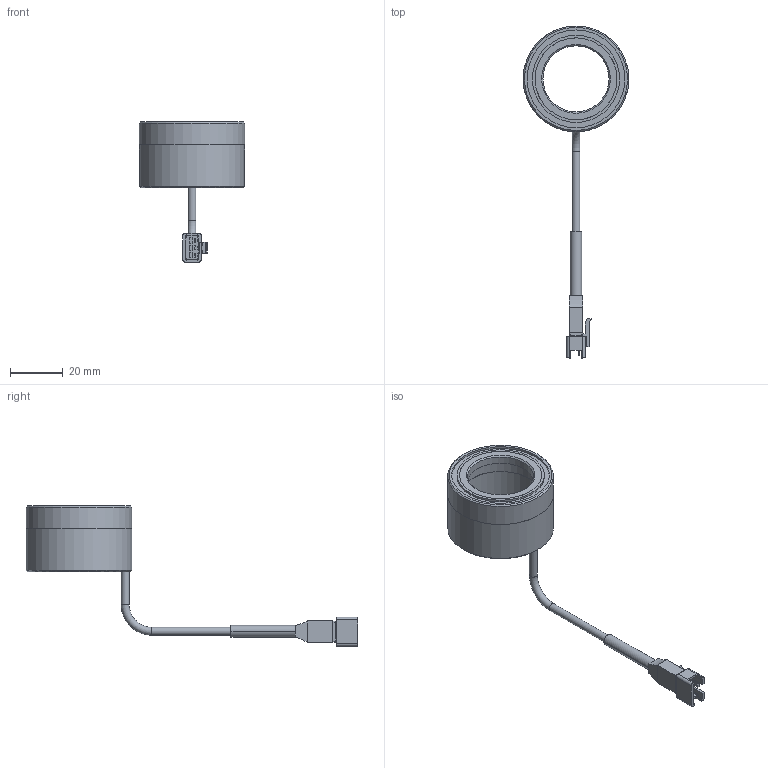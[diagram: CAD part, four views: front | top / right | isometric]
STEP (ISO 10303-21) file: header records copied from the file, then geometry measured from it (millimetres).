
FILE_DESCRIPTION (( 'STEP AP203' ), '1' );
FILE_NAME ('VAT-4030W-TCH110_Drawing_L1220A - A00100.STEP', '2024-02-01T08:38:16', ( '' ), ( '' ), 'SwSTEP 2.0', 'SolidWorks 2020', '' );
FILE_SCHEMA (( 'CONFIG_CONTROL_DESIGN' ));
Length unit declared in the file: millimetre
Products named in the file (7): VAT-4030W-TCH110_Drawing_L1220A - A00100; JST SM 2.5 CABLE 3P; VAT-4030W-TCH110 _ TMR1023D305A _ TCH-110 透鏡 _ L1220A-M00501; VAT-4030W-TCH110 _ TMR1023D302A _ TCH-110 內框圈 _ L1220A-M00201; VAT-4030W-TCH110 _ TMR1023D304A _ TCH-110 轉接環 _ L1220A-M00401; VAT-4030W-TCH110 _ TMR1023D301A _ TCH-110 基座 _ L1220A-M00101; VAT-4030W-TCH110 _ TMR1023D303A _ TCH-110 外框圈 _ L1220A-M00301
Assembly tree (6 placements, depth 2):
  VAT-4030W-TCH110_Drawing_L1220A - A00100
    VAT-4030W-TCH110 _ TMR1023D301A _ TCH-110 基座 _ L1220A-M00101
    VAT-4030W-TCH110 _ TMR1023D302A _ TCH-110 內框圈 _ L1220A-M00201
    VAT-4030W-TCH110 _ TMR1023D303A _ TCH-110 外框圈 _ L1220A-M00301
    VAT-4030W-TCH110 _ TMR1023D305A _ TCH-110 透鏡 _ L1220A-M00501
    JST SM 2.5 CABLE 3P
    VAT-4030W-TCH110 _ TMR1023D304A _ TCH-110 轉接環 _ L1220A-M00401
Bounding box: 40 x 125.5 x 53.2 mm (x, y, z)
Volume: 15819.6 mm3; surface area: 15124.1 mm2
Topology: 7 solids, 7 shells, 245 faces, 586 edges, 375 vertices
Faces by surface type: plane 152, cylinder 68, bspline 16, torus 5, cone 4
Full cylindrical faces by diameter (mm): 3 x2, 3.2 x1, 25 x1, 27 x1, 29.5 x2, 31 x2, 32 x2, 32.2 x1, 33 x1, 37 x1, 37.8 x1, 38 x2, 40 x2
Entity records: 13672 total; most frequent: CARTESIAN_POINT 7477, ORIENTED_EDGE 1122, DIRECTION 1079, EDGE_CURVE 561, VECTOR 391, LINE 391, VERTEX_POINT 374, AXIS2_PLACEMENT_3D 344
